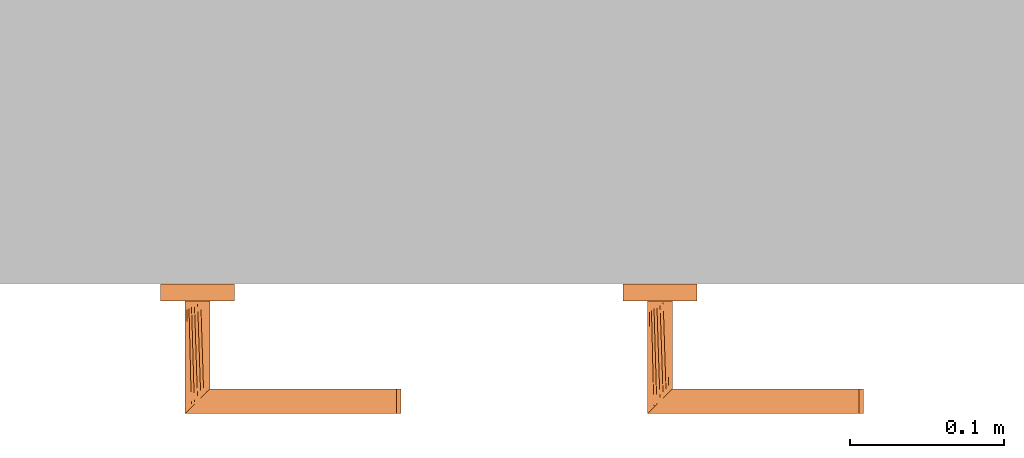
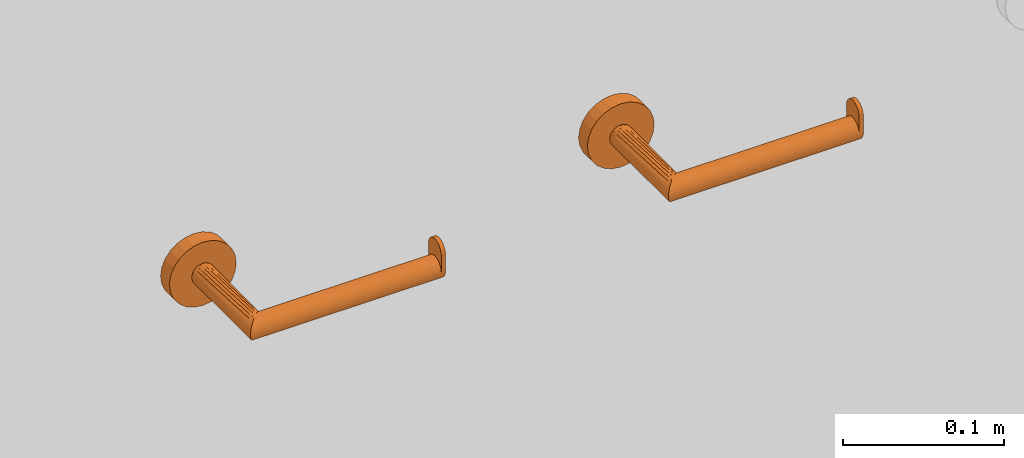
# One storey, part 2 of 3: 2 proxies.
"""IFC2X3 building model written with IfcOpenShell, lengths in millimetres."""

from ifc_helpers import new_model, entity, si_unit, converted_unit, derived_unit, direction, frame, origin, place, context, subcontext, project, spatial, faceted_brep, source, transform, mapped, material, type_object, type_shapes, element, save


model = new_model("IFC2X3")

# Units and contexts
model_context = context("Model", 3, precision=0.01, world=origin(), true_north=direction((6.12303176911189e-17, 1.0)))
body_context = subcontext(model_context, "Body", "Model", "MODEL_VIEW")
ifc_project = project(units=[si_unit("LENGTHUNIT", "METRE", prefix="MILLI"), si_unit("AREAUNIT", "SQUARE_METRE"), si_unit("VOLUMEUNIT", "CUBIC_METRE"), converted_unit("PLANEANGLEUNIT", "DEGREE", entity("IfcRatioMeasure", 0.0174532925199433), si_unit("PLANEANGLEUNIT", "RADIAN"), dimensions=[0, 0, 0, 0, 0, 0, 0]), si_unit("MASSUNIT", "GRAM", prefix="KILO"), derived_unit("MASSDENSITYUNIT", [(si_unit("MASSUNIT", "GRAM", prefix="KILO"), 1), (si_unit("LENGTHUNIT", "METRE"), -3)]), si_unit("TIMEUNIT", "SECOND"), si_unit("FREQUENCYUNIT", "HERTZ"), si_unit("THERMODYNAMICTEMPERATUREUNIT", "DEGREE_CELSIUS"), derived_unit("THERMALTRANSMITTANCEUNIT", [(si_unit("MASSUNIT", "GRAM", prefix="KILO"), 1), (si_unit("THERMODYNAMICTEMPERATUREUNIT", "KELVIN"), -1), (si_unit("TIMEUNIT", "SECOND"), -3)]), derived_unit("VOLUMETRICFLOWRATEUNIT", [(si_unit("LENGTHUNIT", "METRE"), 3), (si_unit("TIMEUNIT", "SECOND"), -1)]), si_unit("ELECTRICCURRENTUNIT", "AMPERE"), si_unit("ELECTRICVOLTAGEUNIT", "VOLT"), si_unit("POWERUNIT", "WATT"), si_unit("FORCEUNIT", "NEWTON", prefix="KILO"), si_unit("ILLUMINANCEUNIT", "LUX"), si_unit("LUMINOUSFLUXUNIT", "LUMEN"), si_unit("LUMINOUSINTENSITYUNIT", "CANDELA"), derived_unit("USERDEFINED", [(si_unit("MASSUNIT", "GRAM", prefix="KILO"), -1), (si_unit("LENGTHUNIT", "METRE"), -2), (si_unit("TIMEUNIT", "SECOND"), 3), (si_unit("LUMINOUSFLUXUNIT", "LUMEN"), 1)]), derived_unit("LINEARVELOCITYUNIT", [(si_unit("LENGTHUNIT", "METRE"), 1), (si_unit("TIMEUNIT", "SECOND"), -1)]), si_unit("PRESSUREUNIT", "PASCAL"), derived_unit("USERDEFINED", [(si_unit("LENGTHUNIT", "METRE"), -2), (si_unit("MASSUNIT", "GRAM", prefix="KILO"), 1), (si_unit("TIMEUNIT", "SECOND"), -2)])], contexts=[model_context])

# Site, building, storey
site_placement = place(None, origin())
site = spatial("IfcSite", under=ifc_project, at=site_placement, Name="Default", CompositionType="ELEMENT")
building_placement = place(site_placement, origin())
building = spatial("IfcBuilding", under=site, at=building_placement, CompositionType="ELEMENT")
storey_placement = place(building_placement, origin())
storey = spatial("IfcBuildingStorey", under=building, at=storey_placement, Name="Level 0", CompositionType="ELEMENT", Elevation=0.0)

# Proxies
ifc_material_1 = material(Name="Duten_Metal_BrushedStainlessSteel")
building_element_proxy_type_1 = type_object("IfcBuildingElementProxyType", Name="Brushed Stainless Steel", PredefinedType="USERDEFINED", material=ifc_material_1)
shared_shape_1 = source(origin(), body_context, "Body", "Brep", [
    faceted_brep([(3.0, 72.0, 45.523475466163), (3.0, 70.3431457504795, 44.2521264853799), (3.0, 69.0717967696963, 42.5952722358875), (3.0, 68.2725933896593, 40.6658245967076), (3.0, 68.0, 38.5952722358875), (3.0, 68.0, 25.5952722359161), (3.0, 68.2725933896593, 23.5247198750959), (3.0, 69.0717967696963, 21.595272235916), (3.0, 70.3431457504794, 19.9384179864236), (3.0, 72.0, 18.6670690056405), (3.0, 73.9294476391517, 17.8678656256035), (3.0, 76.0, 17.595272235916), (3.0, 78.070552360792, 17.8678656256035), (3.0, 80.0, 18.6670690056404), (3.0, 81.6568542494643, 19.9384179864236), (3.0, 82.9282032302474, 21.595272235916), (3.0, 83.7274066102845, 23.5247198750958), (3.0, 84.0, 25.595272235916), (3.0, 84.0, 38.5952722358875), (3.0, 83.7274066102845, 40.6658245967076), (3.0, 82.9282032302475, 42.5952722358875), (3.0, 81.6568542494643, 44.2521264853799), (3.0, 80.0, 45.523475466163), (3.0, 78.0705523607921, 46.3226788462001), (3.0, 76.0, 46.5952722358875), (3.0, 73.9294476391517, 46.3226788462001), (0.0, 72.0, 18.6670690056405), (0.0, 70.3431457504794, 19.9384179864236), (0.0, 69.0717967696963, 21.595272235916), (0.0, 68.2725933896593, 23.5247198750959), (0.0, 68.0, 25.595272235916), (0.0, 68.0, 38.5952722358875), (0.0, 68.2725933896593, 40.6658245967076), (0.0, 69.0717967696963, 42.5952722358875), (0.0, 70.3431457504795, 44.2521264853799), (0.0, 72.0, 45.523475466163), (0.0, 73.9294476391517, 46.3226788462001), (0.0, 76.0, 46.5952722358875), (0.0, 78.0705523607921, 46.3226788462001), (0.0, 80.0, 45.523475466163), (0.0, 81.6568542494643, 44.2521264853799), (0.0, 82.9282032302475, 42.5952722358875), (0.0, 83.7274066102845, 40.6658245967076), (0.0, 84.0, 38.5952722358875), (0.0, 84.0, 25.595272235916), (0.0, 83.7274066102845, 23.5247198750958), (0.0, 82.9282032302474, 21.595272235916), (0.0, 81.6568542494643, 19.9384179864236), (0.0, 80.0, 18.6670690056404), (0.0, 78.070552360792, 17.8678656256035), (0.0, 76.0, 17.595272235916), (0.0, 73.9294476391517, 17.8678656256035)], [[[0, 1, 2, 3, 4, 5, 6, 7, 8, 9, 10, 11, 12, 13, 14, 15, 16, 17, 18, 19, 20, 21, 22, 23, 24, 25]], [[26, 27, 28, 29, 30, 31, 32, 33, 34, 35, 36, 37, 38, 39, 40, 41, 42, 43, 44, 45, 46, 47, 48, 49, 50, 51]], [[42, 19, 18, 43]], [[41, 20, 19, 42]], [[22, 21, 40, 39]], [[41, 40, 21, 20]], [[23, 22, 39, 38]], [[24, 23, 38, 37]], [[36, 25, 24, 37]], [[35, 0, 25, 36]], [[2, 1, 34, 33]], [[35, 34, 1, 0]], [[3, 2, 33, 32]], [[4, 3, 32, 31]], [[5, 4, 31, 30]], [[18, 17, 44, 43]], [[29, 6, 5, 30]], [[28, 7, 6, 29]], [[9, 8, 27, 26]], [[28, 27, 8, 7]], [[10, 9, 26, 51]], [[11, 10, 51, 50]], [[49, 12, 11, 50]], [[48, 13, 12, 49]], [[15, 14, 47, 46]], [[48, 47, 14, 13]], [[16, 15, 46, 45]], [[17, 16, 45, 44]]]),
    faceted_brep([(129.92944763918, 11.0, 17.8678656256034), (132.0, 11.0, 17.5952722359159), (134.07055236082, 11.0, 17.8678656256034), (136.0, 11.0, 18.6670690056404), (137.656854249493, 11.0, 19.9384179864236), (138.928203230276, 11.0, 21.595272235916), (139.727406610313, 11.0, 23.5247198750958), (140.0, 11.0, 25.595272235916), (139.727406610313, 11.0, 27.6658245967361), (138.928203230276, 11.0, 29.595272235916), (137.656854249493, 11.0, 31.2521264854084), (136.0, 11.0, 32.5234754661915), (134.070552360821, 11.0, 33.3226788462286), (132.0, 11.0, 33.5952722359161), (129.92944763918, 11.0, 33.3226788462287), (128.0, 11.0, 32.5234754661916), (126.343145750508, 11.0, 31.2521264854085), (125.071796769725, 11.0, 29.5952722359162), (124.272593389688, 11.0, 27.6658245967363), (124.0, 11.0, 25.595272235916), (124.272593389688, 11.0, 23.5247198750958), (125.071796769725, 11.0, 21.595272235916), (126.343145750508, 11.0, 19.9384179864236), (128.0, 11.0, 18.6670690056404), (140.0, 84.0, 25.595272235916), (139.727406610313, 83.7274066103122, 27.665824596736), (138.928203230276, 82.9282032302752, 29.5952722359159), (137.656854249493, 81.6568542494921, 31.2521264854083), (136.0, 80.0, 32.5234754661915), (134.070552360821, 78.0705523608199, 33.3226788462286), (132.0, 76.0, 33.5952722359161), (129.92944763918, 73.9294476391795, 33.3226788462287), (128.0, 72.0, 32.5234754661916), (126.343145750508, 70.3431457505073, 31.2521264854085), (124.272593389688, 68.2725933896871, 27.6658245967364), (124.0, 68.0, 25.5952722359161), (125.071796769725, 69.0717967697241, 29.5952722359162), (125.071796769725, 69.071796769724, 21.595272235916), (126.343145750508, 70.3431457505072, 19.9384179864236), (124.272593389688, 68.272593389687, 23.5247198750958), (128.0, 72.0, 18.6670690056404), (129.92944763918, 73.9294476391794, 17.8678656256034), (132.0, 76.0, 17.5952722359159), (136.0, 80.0, 18.6670690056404), (134.070552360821, 78.0705523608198, 17.8678656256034), (137.656854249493, 81.6568542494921, 19.9384179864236), (138.928203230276, 82.9282032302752, 21.595272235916), (139.727406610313, 83.7274066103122, 23.5247198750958), (3.0, 73.9294476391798, 17.8678656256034), (3.0, 72.0, 18.6670690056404), (3.0, 70.3431457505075, 19.9384179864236), (3.0, 69.0717967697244, 21.595272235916), (3.0, 68.2725933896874, 23.5247198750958), (3.0, 68.0, 25.5952722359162), (3.0, 68.2725933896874, 27.6658245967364), (3.0, 69.0717967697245, 29.5952722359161), (3.0, 70.3431457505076, 31.2521264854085), (3.0, 72.0, 32.5234754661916), (3.0, 73.9294476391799, 33.3226788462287), (3.0, 76.0, 33.5952722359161), (3.0, 78.0705523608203, 33.3226788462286), (3.0, 80.0, 32.5234754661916), (3.0, 81.6568542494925, 31.2521264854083), (3.0, 82.9282032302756, 29.595272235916), (3.0, 83.7274066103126, 27.6658245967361), (3.0, 84.0, 25.595272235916), (3.0, 83.7274066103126, 23.5247198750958), (3.0, 82.9282032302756, 21.595272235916), (3.0, 81.6568542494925, 19.9384179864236), (3.0, 80.0, 18.6670690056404), (3.0, 78.0705523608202, 17.8678656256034), (3.0, 76.0, 17.5952722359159)], [[[0, 1, 2, 3, 4, 5, 6, 7, 8, 9, 10, 11, 12, 13, 14, 15, 16, 17, 18, 19, 20, 21, 22, 23]], [[7, 24, 25, 8]], [[26, 9, 8, 25]], [[9, 27, 28]], [[26, 27, 9]], [[10, 28, 29]], [[12, 30, 31]], [[30, 12, 11]], [[10, 29, 11]], [[10, 9, 28]], [[29, 30, 11]], [[32, 33, 14]], [[31, 32, 13]], [[34, 35, 19, 18]], [[36, 34, 18, 17]], [[33, 36, 17, 16]], [[33, 15, 14]], [[14, 13, 32]], [[16, 15, 33]], [[31, 13, 12]], [[37, 38, 22, 21]], [[39, 37, 21, 20]], [[1, 40, 41]], [[0, 40, 1]], [[38, 40, 0]], [[35, 39, 20, 19]], [[23, 22, 38]], [[38, 0, 23]], [[41, 42, 2]], [[43, 4, 44]], [[45, 5, 43]], [[6, 5, 46, 47]], [[45, 46, 5]], [[7, 6, 47, 24]], [[3, 2, 42]], [[1, 41, 2]], [[4, 43, 5]], [[4, 3, 44]], [[42, 44, 3]], [[48, 49, 50, 51, 52, 53, 54, 55, 56, 57, 58, 59, 60, 61, 62, 63, 64, 65, 66, 67, 68, 69, 70, 71]], [[64, 63, 26, 25]], [[65, 64, 25, 24]], [[61, 60, 29, 28]], [[62, 61, 28, 27]], [[63, 62, 27, 26]], [[30, 29, 60, 59]], [[57, 56, 33, 32]], [[58, 57, 32, 31]], [[54, 53, 35, 34]], [[55, 54, 34, 36]], [[56, 55, 36, 33]], [[30, 59, 58, 31]], [[52, 51, 37, 39]], [[53, 52, 39, 35]], [[49, 48, 41, 40]], [[50, 49, 40, 38]], [[51, 50, 38, 37]], [[71, 42, 41, 48]], [[69, 68, 45, 43]], [[70, 69, 43, 44]], [[66, 65, 24, 47]], [[67, 66, 47, 46]], [[68, 67, 46, 45]], [[44, 42, 71, 70]]]),
    faceted_brep([(120.0, 0.0, 46.3798819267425), (115.029437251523, 0.0, 42.5658349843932), (111.215390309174, 0.0, 37.5952722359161), (108.817780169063, 0.0, 31.8069293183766), (108.0, 0.0, 25.595272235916), (108.817780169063, 0.0, 19.3836151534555), (111.215390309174, 0.0, 13.595272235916), (115.029437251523, 0.0, 8.62470948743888), (120.0, 0.0, 4.81066254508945), (125.78834291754, 0.0, 2.41305240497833), (132.0, 0.0, 1.59527223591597), (138.211657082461, 0.0, 2.41305240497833), (144.0, 0.0, 4.81066254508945), (148.970562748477, 0.0, 8.62470948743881), (152.784609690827, 0.0, 13.5952722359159), (155.182219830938, 0.0, 19.3836151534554), (156.0, 0.0, 25.5952722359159), (155.182219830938, 0.0, 31.8069293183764), (152.784609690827, 0.0, 37.595272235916), (148.970562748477, 0.0, 42.565834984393), (144.0, 0.0, 46.3798819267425), (138.211657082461, 0.0, 48.7774920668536), (132.0, 0.0, 49.5952722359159), (125.78834291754, 0.0, 48.7774920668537), (115.029437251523, 11.0, 8.62470948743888), (111.215390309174, 11.0, 13.595272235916), (108.817780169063, 11.0, 19.3836151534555), (108.0, 11.0, 25.5952722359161), (108.817780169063, 11.0, 31.8069293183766), (111.215390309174, 11.0, 37.5952722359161), (115.029437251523, 11.0, 42.5658349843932), (120.0, 11.0, 46.3798819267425), (125.78834291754, 11.0, 48.7774920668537), (132.0, 11.0, 49.5952722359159), (138.211657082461, 11.0, 48.7774920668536), (144.0, 11.0, 46.3798819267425), (148.970562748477, 11.0, 42.565834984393), (152.784609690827, 11.0, 37.595272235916), (155.182219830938, 11.0, 31.8069293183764), (156.0, 11.0, 25.5952722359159), (155.182219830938, 11.0, 19.3836151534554), (152.784609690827, 11.0, 13.5952722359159), (148.970562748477, 11.0, 8.62470948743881), (144.0, 11.0, 4.81066254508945), (138.211657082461, 11.0, 2.41305240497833), (132.0, 11.0, 1.59527223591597), (125.78834291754, 11.0, 2.41305240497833), (120.0, 11.0, 4.81066254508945)], [[[0, 1, 2, 3, 4, 5, 6, 7, 8, 9, 10, 11, 12, 13, 14, 15, 16, 17, 18, 19, 20, 21, 22, 23]], [[24, 25, 26, 27, 28, 29, 30, 31, 32, 33, 34, 35, 36, 37, 38, 39, 40, 41, 42, 43, 44, 45, 46, 47]], [[38, 17, 16, 39]], [[37, 18, 17, 38]], [[20, 19, 36, 35]], [[37, 36, 19, 18]], [[21, 20, 35, 34]], [[22, 21, 34, 33]], [[32, 23, 22, 33]], [[31, 0, 23, 32]], [[2, 1, 30, 29]], [[31, 30, 1, 0]], [[3, 2, 29, 28]], [[4, 3, 28, 27]], [[26, 5, 4, 27]], [[25, 6, 5, 26]], [[8, 7, 24, 47]], [[25, 24, 7, 6]], [[9, 8, 47, 46]], [[10, 9, 46, 45]], [[44, 11, 10, 45]], [[43, 12, 11, 44]], [[14, 13, 42, 41]], [[43, 42, 13, 12]], [[15, 14, 41, 40]], [[16, 15, 40, 39]]]),
])
type_shapes(building_element_proxy_type_1, [shared_shape_1])
proxy_1_placement = place(storey_placement, frame((-4992.06711548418, 781.719275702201, 904.404727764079), z_axis=(0.0, 0.0, 1.0), x_axis=(-1.0, 0.0, 0.0)))
element("IfcBuildingElementProxy", 1, at=proxy_1_placement, inside=storey, type_object=building_element_proxy_type_1, material=ifc_material_1, Name="Duten_PprRllDpnsrs_H101:Brushed Stainless Steel", ObjectType="Brushed Stainless Steel", context=body_context, shape_type="MappedRepresentation", body=[
    mapped(shared_shape_1, transform((0.0, 0.0, 0.0), scale=1.0)),
])
ifc_material_2 = material(Name="Duten_Metal_MatteBlack")
building_element_proxy_type_2 = type_object("IfcBuildingElementProxyType", Name="Matte Black", PredefinedType="USERDEFINED", material=ifc_material_2)
shared_shape_2 = source(origin(), body_context, "Body", "Brep", [
    faceted_brep([(3.0, 72.0, 45.523475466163), (3.0, 70.3431457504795, 44.2521264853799), (3.0, 69.0717967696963, 42.5952722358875), (3.0, 68.2725933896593, 40.6658245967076), (3.0, 68.0, 38.5952722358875), (3.0, 68.0, 25.5952722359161), (3.0, 68.2725933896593, 23.5247198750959), (3.0, 69.0717967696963, 21.595272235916), (3.0, 70.3431457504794, 19.9384179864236), (3.0, 72.0, 18.6670690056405), (3.0, 73.9294476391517, 17.8678656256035), (3.0, 76.0, 17.595272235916), (3.0, 78.070552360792, 17.8678656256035), (3.0, 80.0, 18.6670690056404), (3.0, 81.6568542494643, 19.9384179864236), (3.0, 82.9282032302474, 21.595272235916), (3.0, 83.7274066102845, 23.5247198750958), (3.0, 84.0, 25.595272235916), (3.0, 84.0, 38.5952722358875), (3.0, 83.7274066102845, 40.6658245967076), (3.0, 82.9282032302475, 42.5952722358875), (3.0, 81.6568542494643, 44.2521264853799), (3.0, 80.0, 45.523475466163), (3.0, 78.0705523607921, 46.3226788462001), (3.0, 76.0, 46.5952722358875), (3.0, 73.9294476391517, 46.3226788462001), (0.0, 72.0, 18.6670690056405), (0.0, 70.3431457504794, 19.9384179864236), (0.0, 69.0717967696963, 21.595272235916), (0.0, 68.2725933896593, 23.5247198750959), (0.0, 68.0, 25.595272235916), (0.0, 68.0, 38.5952722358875), (0.0, 68.2725933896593, 40.6658245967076), (0.0, 69.0717967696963, 42.5952722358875), (0.0, 70.3431457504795, 44.2521264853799), (0.0, 72.0, 45.523475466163), (0.0, 73.9294476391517, 46.3226788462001), (0.0, 76.0, 46.5952722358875), (0.0, 78.0705523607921, 46.3226788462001), (0.0, 80.0, 45.523475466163), (0.0, 81.6568542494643, 44.2521264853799), (0.0, 82.9282032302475, 42.5952722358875), (0.0, 83.7274066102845, 40.6658245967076), (0.0, 84.0, 38.5952722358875), (0.0, 84.0, 25.595272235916), (0.0, 83.7274066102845, 23.5247198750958), (0.0, 82.9282032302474, 21.595272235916), (0.0, 81.6568542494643, 19.9384179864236), (0.0, 80.0, 18.6670690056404), (0.0, 78.070552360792, 17.8678656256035), (0.0, 76.0, 17.595272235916), (0.0, 73.9294476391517, 17.8678656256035)], [[[0, 1, 2, 3, 4, 5, 6, 7, 8, 9, 10, 11, 12, 13, 14, 15, 16, 17, 18, 19, 20, 21, 22, 23, 24, 25]], [[26, 27, 28, 29, 30, 31, 32, 33, 34, 35, 36, 37, 38, 39, 40, 41, 42, 43, 44, 45, 46, 47, 48, 49, 50, 51]], [[42, 19, 18, 43]], [[41, 20, 19, 42]], [[22, 21, 40, 39]], [[41, 40, 21, 20]], [[23, 22, 39, 38]], [[24, 23, 38, 37]], [[36, 25, 24, 37]], [[35, 0, 25, 36]], [[2, 1, 34, 33]], [[35, 34, 1, 0]], [[3, 2, 33, 32]], [[4, 3, 32, 31]], [[5, 4, 31, 30]], [[18, 17, 44, 43]], [[29, 6, 5, 30]], [[28, 7, 6, 29]], [[9, 8, 27, 26]], [[28, 27, 8, 7]], [[10, 9, 26, 51]], [[11, 10, 51, 50]], [[49, 12, 11, 50]], [[48, 13, 12, 49]], [[15, 14, 47, 46]], [[48, 47, 14, 13]], [[16, 15, 46, 45]], [[17, 16, 45, 44]]]),
    faceted_brep([(129.92944763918, 11.0, 17.8678656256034), (132.0, 11.0, 17.5952722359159), (134.07055236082, 11.0, 17.8678656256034), (136.0, 11.0, 18.6670690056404), (137.656854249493, 11.0, 19.9384179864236), (138.928203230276, 11.0, 21.595272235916), (139.727406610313, 11.0, 23.5247198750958), (140.0, 11.0, 25.595272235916), (139.727406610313, 11.0, 27.6658245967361), (138.928203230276, 11.0, 29.595272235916), (137.656854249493, 11.0, 31.2521264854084), (136.0, 11.0, 32.5234754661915), (134.070552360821, 11.0, 33.3226788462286), (132.0, 11.0, 33.5952722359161), (129.92944763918, 11.0, 33.3226788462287), (128.0, 11.0, 32.5234754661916), (126.343145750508, 11.0, 31.2521264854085), (125.071796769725, 11.0, 29.5952722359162), (124.272593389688, 11.0, 27.6658245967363), (124.0, 11.0, 25.595272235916), (124.272593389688, 11.0, 23.5247198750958), (125.071796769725, 11.0, 21.595272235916), (126.343145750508, 11.0, 19.9384179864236), (128.0, 11.0, 18.6670690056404), (140.0, 84.0, 25.595272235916), (139.727406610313, 83.7274066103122, 27.665824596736), (138.928203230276, 82.9282032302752, 29.5952722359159), (137.656854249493, 81.6568542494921, 31.2521264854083), (136.0, 80.0, 32.5234754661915), (134.070552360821, 78.0705523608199, 33.3226788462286), (132.0, 76.0, 33.5952722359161), (129.92944763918, 73.9294476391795, 33.3226788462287), (128.0, 72.0, 32.5234754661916), (126.343145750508, 70.3431457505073, 31.2521264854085), (124.272593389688, 68.2725933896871, 27.6658245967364), (124.0, 68.0, 25.5952722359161), (125.071796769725, 69.0717967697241, 29.5952722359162), (125.071796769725, 69.071796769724, 21.595272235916), (126.343145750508, 70.3431457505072, 19.9384179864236), (124.272593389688, 68.272593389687, 23.5247198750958), (128.0, 72.0, 18.6670690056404), (129.92944763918, 73.9294476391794, 17.8678656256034), (132.0, 76.0, 17.5952722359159), (136.0, 80.0, 18.6670690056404), (134.070552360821, 78.0705523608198, 17.8678656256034), (137.656854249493, 81.6568542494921, 19.9384179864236), (138.928203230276, 82.9282032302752, 21.595272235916), (139.727406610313, 83.7274066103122, 23.5247198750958), (3.0, 73.9294476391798, 17.8678656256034), (3.0, 72.0, 18.6670690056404), (3.0, 70.3431457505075, 19.9384179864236), (3.0, 69.0717967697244, 21.595272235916), (3.0, 68.2725933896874, 23.5247198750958), (3.0, 68.0, 25.5952722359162), (3.0, 68.2725933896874, 27.6658245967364), (3.0, 69.0717967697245, 29.5952722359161), (3.0, 70.3431457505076, 31.2521264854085), (3.0, 72.0, 32.5234754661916), (3.0, 73.9294476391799, 33.3226788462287), (3.0, 76.0, 33.5952722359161), (3.0, 78.0705523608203, 33.3226788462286), (3.0, 80.0, 32.5234754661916), (3.0, 81.6568542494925, 31.2521264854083), (3.0, 82.9282032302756, 29.595272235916), (3.0, 83.7274066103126, 27.6658245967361), (3.0, 84.0, 25.595272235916), (3.0, 83.7274066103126, 23.5247198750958), (3.0, 82.9282032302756, 21.595272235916), (3.0, 81.6568542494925, 19.9384179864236), (3.0, 80.0, 18.6670690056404), (3.0, 78.0705523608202, 17.8678656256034), (3.0, 76.0, 17.5952722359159)], [[[0, 1, 2, 3, 4, 5, 6, 7, 8, 9, 10, 11, 12, 13, 14, 15, 16, 17, 18, 19, 20, 21, 22, 23]], [[7, 24, 25, 8]], [[26, 9, 8, 25]], [[9, 27, 28]], [[26, 27, 9]], [[10, 28, 29]], [[12, 30, 31]], [[30, 12, 11]], [[10, 29, 11]], [[10, 9, 28]], [[29, 30, 11]], [[32, 33, 14]], [[31, 32, 13]], [[34, 35, 19, 18]], [[36, 34, 18, 17]], [[33, 36, 17, 16]], [[33, 15, 14]], [[14, 13, 32]], [[16, 15, 33]], [[31, 13, 12]], [[37, 38, 22, 21]], [[39, 37, 21, 20]], [[1, 40, 41]], [[0, 40, 1]], [[38, 40, 0]], [[35, 39, 20, 19]], [[23, 22, 38]], [[38, 0, 23]], [[41, 42, 2]], [[43, 4, 44]], [[45, 5, 43]], [[6, 5, 46, 47]], [[45, 46, 5]], [[7, 6, 47, 24]], [[3, 2, 42]], [[1, 41, 2]], [[4, 43, 5]], [[4, 3, 44]], [[42, 44, 3]], [[48, 49, 50, 51, 52, 53, 54, 55, 56, 57, 58, 59, 60, 61, 62, 63, 64, 65, 66, 67, 68, 69, 70, 71]], [[64, 63, 26, 25]], [[65, 64, 25, 24]], [[61, 60, 29, 28]], [[62, 61, 28, 27]], [[63, 62, 27, 26]], [[30, 29, 60, 59]], [[57, 56, 33, 32]], [[58, 57, 32, 31]], [[54, 53, 35, 34]], [[55, 54, 34, 36]], [[56, 55, 36, 33]], [[30, 59, 58, 31]], [[52, 51, 37, 39]], [[53, 52, 39, 35]], [[49, 48, 41, 40]], [[50, 49, 40, 38]], [[51, 50, 38, 37]], [[71, 42, 41, 48]], [[69, 68, 45, 43]], [[70, 69, 43, 44]], [[66, 65, 24, 47]], [[67, 66, 47, 46]], [[68, 67, 46, 45]], [[44, 42, 71, 70]]]),
    faceted_brep([(120.0, 0.0, 46.3798819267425), (115.029437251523, 0.0, 42.5658349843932), (111.215390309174, 0.0, 37.5952722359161), (108.817780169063, 0.0, 31.8069293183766), (108.0, 0.0, 25.595272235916), (108.817780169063, 0.0, 19.3836151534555), (111.215390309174, 0.0, 13.595272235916), (115.029437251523, 0.0, 8.62470948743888), (120.0, 0.0, 4.81066254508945), (125.78834291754, 0.0, 2.41305240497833), (132.0, 0.0, 1.59527223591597), (138.211657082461, 0.0, 2.41305240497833), (144.0, 0.0, 4.81066254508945), (148.970562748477, 0.0, 8.62470948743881), (152.784609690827, 0.0, 13.5952722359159), (155.182219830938, 0.0, 19.3836151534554), (156.0, 0.0, 25.5952722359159), (155.182219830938, 0.0, 31.8069293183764), (152.784609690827, 0.0, 37.595272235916), (148.970562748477, 0.0, 42.565834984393), (144.0, 0.0, 46.3798819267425), (138.211657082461, 0.0, 48.7774920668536), (132.0, 0.0, 49.5952722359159), (125.78834291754, 0.0, 48.7774920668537), (115.029437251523, 11.0, 8.62470948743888), (111.215390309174, 11.0, 13.595272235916), (108.817780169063, 11.0, 19.3836151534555), (108.0, 11.0, 25.5952722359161), (108.817780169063, 11.0, 31.8069293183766), (111.215390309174, 11.0, 37.5952722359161), (115.029437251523, 11.0, 42.5658349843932), (120.0, 11.0, 46.3798819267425), (125.78834291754, 11.0, 48.7774920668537), (132.0, 11.0, 49.5952722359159), (138.211657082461, 11.0, 48.7774920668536), (144.0, 11.0, 46.3798819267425), (148.970562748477, 11.0, 42.565834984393), (152.784609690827, 11.0, 37.595272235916), (155.182219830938, 11.0, 31.8069293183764), (156.0, 11.0, 25.5952722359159), (155.182219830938, 11.0, 19.3836151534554), (152.784609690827, 11.0, 13.5952722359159), (148.970562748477, 11.0, 8.62470948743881), (144.0, 11.0, 4.81066254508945), (138.211657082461, 11.0, 2.41305240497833), (132.0, 11.0, 1.59527223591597), (125.78834291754, 11.0, 2.41305240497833), (120.0, 11.0, 4.81066254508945)], [[[0, 1, 2, 3, 4, 5, 6, 7, 8, 9, 10, 11, 12, 13, 14, 15, 16, 17, 18, 19, 20, 21, 22, 23]], [[24, 25, 26, 27, 28, 29, 30, 31, 32, 33, 34, 35, 36, 37, 38, 39, 40, 41, 42, 43, 44, 45, 46, 47]], [[38, 17, 16, 39]], [[37, 18, 17, 38]], [[20, 19, 36, 35]], [[37, 36, 19, 18]], [[21, 20, 35, 34]], [[22, 21, 34, 33]], [[32, 23, 22, 33]], [[31, 0, 23, 32]], [[2, 1, 30, 29]], [[31, 30, 1, 0]], [[3, 2, 29, 28]], [[4, 3, 28, 27]], [[26, 5, 4, 27]], [[25, 6, 5, 26]], [[8, 7, 24, 47]], [[25, 24, 7, 6]], [[9, 8, 47, 46]], [[10, 9, 46, 45]], [[44, 11, 10, 45]], [[43, 12, 11, 44]], [[14, 13, 42, 41]], [[43, 42, 13, 12]], [[15, 14, 41, 40]], [[16, 15, 40, 39]]]),
])
type_shapes(building_element_proxy_type_2, [shared_shape_2])
proxy_2_placement = place(storey_placement, frame((-4692.06711548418, 781.7192757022, 904.40472776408), z_axis=(0.0, 0.0, 1.0), x_axis=(-1.0, 0.0, 0.0)))
element("IfcBuildingElementProxy", 2, at=proxy_2_placement, inside=storey, type_object=building_element_proxy_type_2, material=ifc_material_2, Name="Duten_PprRllDpnsrs_H101:Matte Black", ObjectType="Matte Black", context=body_context, shape_type="MappedRepresentation", body=[
    mapped(shared_shape_2, transform((0.0, 0.0, 0.0), scale=1.0)),
])

save(model, "model.ifc")
